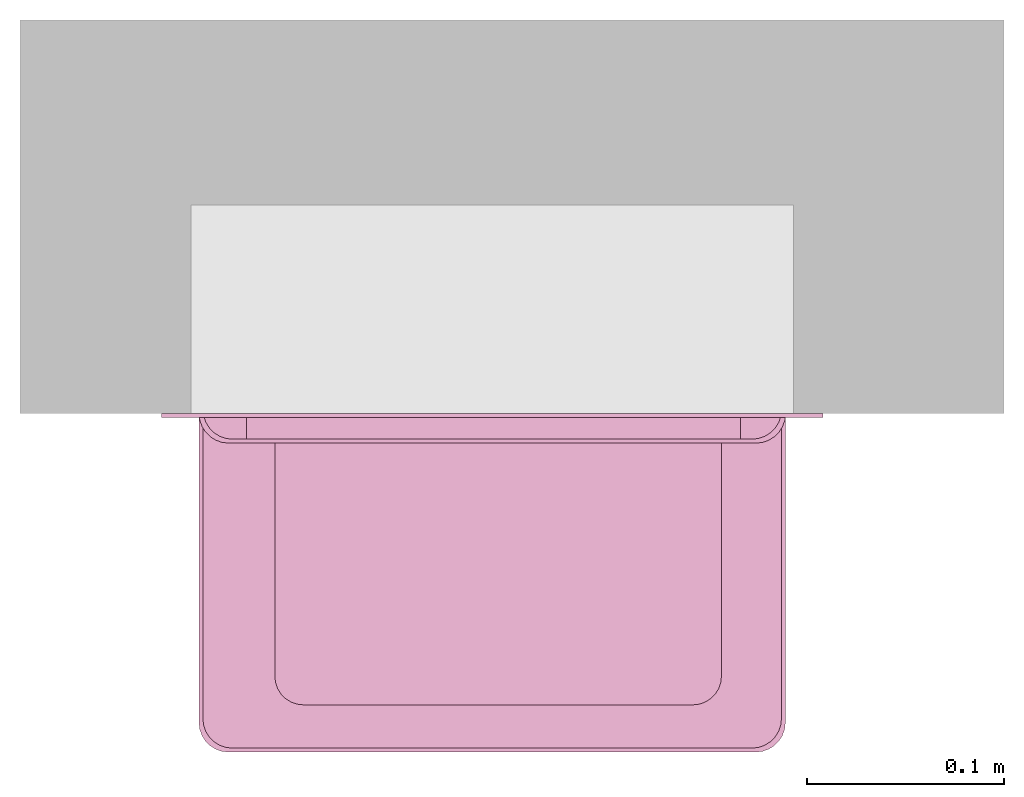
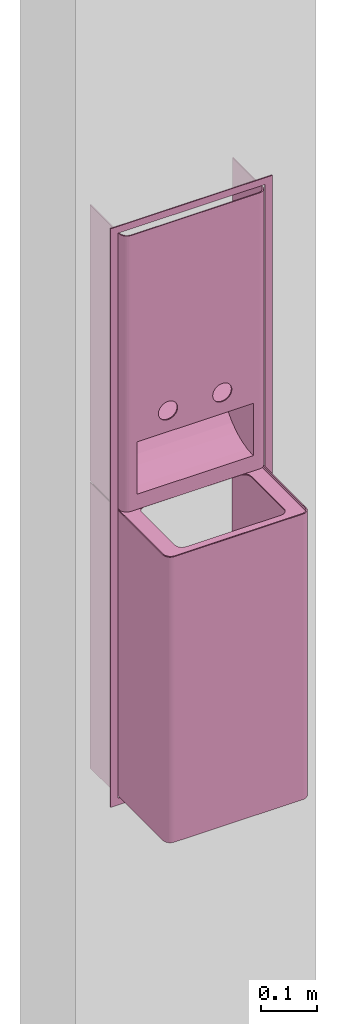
# One storey, part 2 of 2: 1 furnishing, 3 openings.
"""IFC2X3 building model written with IfcOpenShell, lengths in millimetres."""

from ifc_helpers import new_model, entity, si_unit, converted_unit, derived_unit, direction, frame, frame_2d, origin, origin_2d_with_axis, place, context, subcontext, project, spatial, polyline, circle_curve, parameter, trimmed, segment, composite_curve, rectangle, circle, outline, extrude, source, transform, mapped, material, type_object, type_shapes, element, save


model = new_model("IFC2X3")

# Units and contexts
model_context = context("Model", 3, precision=0.01, world=origin(), true_north=direction((6.123031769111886e-17, 1.0)))
body_context = subcontext(model_context, "Body", "Model", "MODEL_VIEW")
ifc_project = project(units=[si_unit("LENGTHUNIT", "METRE", prefix="MILLI"), si_unit("AREAUNIT", "SQUARE_METRE"), si_unit("VOLUMEUNIT", "CUBIC_METRE"), converted_unit("PLANEANGLEUNIT", "DEGREE", entity("IfcPlaneAngleMeasure", 0.017453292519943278), si_unit("PLANEANGLEUNIT", "RADIAN"), dimensions=[0, 0, 0, 0, 0, 0, 0]), si_unit("MASSUNIT", "GRAM", prefix="KILO"), derived_unit("MASSDENSITYUNIT", [(si_unit("MASSUNIT", "GRAM", prefix="KILO"), 1), (si_unit("LENGTHUNIT", "METRE"), -3)]), derived_unit("IONCONCENTRATIONUNIT", [(si_unit("MASSUNIT", "GRAM", prefix="KILO"), 1), (si_unit("LENGTHUNIT", "METRE"), -3)]), derived_unit("MOMENTOFINERTIAUNIT", [(si_unit("LENGTHUNIT", "METRE"), 4)]), si_unit("TIMEUNIT", "SECOND"), si_unit("FREQUENCYUNIT", "HERTZ"), si_unit("THERMODYNAMICTEMPERATUREUNIT", "DEGREE_CELSIUS"), derived_unit("THERMALTRANSMITTANCEUNIT", [(si_unit("MASSUNIT", "GRAM", prefix="KILO"), 1), (si_unit("THERMODYNAMICTEMPERATUREUNIT", "KELVIN"), -1), (si_unit("TIMEUNIT", "SECOND"), -3)]), derived_unit("THERMALCONDUCTANCEUNIT", [(si_unit("MASSUNIT", "GRAM", prefix="KILO"), 1), (si_unit("THERMODYNAMICTEMPERATUREUNIT", "KELVIN"), -1), (si_unit("TIMEUNIT", "SECOND"), -3), (si_unit("LENGTHUNIT", "METRE"), 1)]), derived_unit("VOLUMETRICFLOWRATEUNIT", [(si_unit("LENGTHUNIT", "METRE", prefix="DECI"), 3), (si_unit("TIMEUNIT", "SECOND"), -1)]), derived_unit("MASSFLOWRATEUNIT", [(si_unit("MASSUNIT", "GRAM", prefix="KILO"), 1), (si_unit("TIMEUNIT", "SECOND"), -1)]), derived_unit("ROTATIONALFREQUENCYUNIT", [(si_unit("TIMEUNIT", "SECOND"), -1)]), si_unit("ELECTRICCURRENTUNIT", "AMPERE"), si_unit("ELECTRICVOLTAGEUNIT", "VOLT"), si_unit("POWERUNIT", "WATT"), si_unit("FORCEUNIT", "NEWTON", prefix="KILO"), si_unit("ILLUMINANCEUNIT", "LUX"), si_unit("LUMINOUSFLUXUNIT", "LUMEN"), si_unit("LUMINOUSINTENSITYUNIT", "CANDELA"), si_unit("ENERGYUNIT", "JOULE"), derived_unit("USERDEFINED", [(si_unit("MASSUNIT", "GRAM", prefix="KILO"), -1), (si_unit("LENGTHUNIT", "METRE"), -2), (si_unit("TIMEUNIT", "SECOND"), 3), (si_unit("LUMINOUSFLUXUNIT", "LUMEN"), 1)]), derived_unit("USERDEFINED", [(si_unit("MASSUNIT", "GRAM", prefix="KILO"), 1), (si_unit("TIMEUNIT", "SECOND"), -3), (si_unit("LENGTHUNIT", "METRE"), 3), (si_unit("ELECTRICCURRENTUNIT", "AMPERE"), -2)]), derived_unit("SOUNDPOWERUNIT", [(si_unit("MASSUNIT", "GRAM", prefix="KILO"), 1), (si_unit("TIMEUNIT", "SECOND"), -3), (si_unit("LENGTHUNIT", "METRE"), 2)]), derived_unit("SOUNDPRESSUREUNIT", [(si_unit("MASSUNIT", "GRAM", prefix="KILO"), 1), (si_unit("LENGTHUNIT", "METRE"), -1), (si_unit("TIMEUNIT", "SECOND"), -2)]), derived_unit("LINEARVELOCITYUNIT", [(si_unit("LENGTHUNIT", "METRE"), 1), (si_unit("TIMEUNIT", "SECOND"), -1)]), si_unit("PRESSUREUNIT", "PASCAL"), derived_unit("USERDEFINED", [(si_unit("MASSUNIT", "GRAM", prefix="KILO"), 1), (si_unit("LENGTHUNIT", "METRE"), -2), (si_unit("TIMEUNIT", "SECOND"), -2)]), derived_unit("LINEARFORCEUNIT", [(si_unit("MASSUNIT", "GRAM", prefix="KILO"), 1), (si_unit("TIMEUNIT", "SECOND"), -2)]), derived_unit("PLANARFORCEUNIT", [(si_unit("MASSUNIT", "GRAM", prefix="KILO"), 1), (si_unit("LENGTHUNIT", "METRE"), -1), (si_unit("TIMEUNIT", "SECOND"), -2)]), derived_unit("SPECIFICHEATCAPACITYUNIT", [(si_unit("THERMODYNAMICTEMPERATUREUNIT", "KELVIN"), -1), (si_unit("LENGTHUNIT", "METRE"), 2), (si_unit("TIMEUNIT", "SECOND"), -2)]), derived_unit("HEATFLUXDENSITYUNIT", [(si_unit("MASSUNIT", "GRAM", prefix="KILO"), 1), (si_unit("TIMEUNIT", "SECOND"), -3)]), derived_unit("HEATINGVALUEUNIT", [(si_unit("LENGTHUNIT", "METRE"), 2), (si_unit("TIMEUNIT", "SECOND"), -2)]), derived_unit("VAPORPERMEABILITYUNIT", [(si_unit("LENGTHUNIT", "METRE"), -1), (si_unit("TIMEUNIT", "SECOND"), 1)]), derived_unit("DYNAMICVISCOSITYUNIT", [(si_unit("MASSUNIT", "GRAM", prefix="KILO"), 1), (si_unit("TIMEUNIT", "SECOND"), -1), (si_unit("LENGTHUNIT", "METRE"), -1)]), derived_unit("THERMALEXPANSIONCOEFFICIENTUNIT", [(si_unit("THERMODYNAMICTEMPERATUREUNIT", "KELVIN"), -1)]), derived_unit("MODULUSOFELASTICITYUNIT", [(si_unit("MASSUNIT", "GRAM", prefix="KILO"), 1), (si_unit("LENGTHUNIT", "METRE"), -1), (si_unit("TIMEUNIT", "SECOND"), -2)]), derived_unit("ISOTHERMALMOISTURECAPACITYUNIT", [(si_unit("MASSUNIT", "GRAM", prefix="KILO"), -1), (si_unit("LENGTHUNIT", "METRE"), 3)]), derived_unit("MOISTUREDIFFUSIVITYUNIT", [(si_unit("TIMEUNIT", "SECOND"), -1), (si_unit("LENGTHUNIT", "METRE"), 2)]), derived_unit("MASSPERLENGTHUNIT", [(si_unit("MASSUNIT", "GRAM", prefix="KILO"), 1), (si_unit("LENGTHUNIT", "METRE"), -1)]), derived_unit("THERMALRESISTANCEUNIT", [(si_unit("MASSUNIT", "GRAM", prefix="KILO"), -1), (si_unit("TIMEUNIT", "SECOND"), 3), (si_unit("THERMODYNAMICTEMPERATUREUNIT", "KELVIN"), 1)]), derived_unit("ACCELERATIONUNIT", [(si_unit("LENGTHUNIT", "METRE"), 1), (si_unit("TIMEUNIT", "SECOND"), -2)]), derived_unit("ANGULARVELOCITYUNIT", [(si_unit("TIMEUNIT", "SECOND"), -1), (si_unit("PLANEANGLEUNIT", "RADIAN"), 1)]), derived_unit("LINEARSTIFFNESSUNIT", [(si_unit("MASSUNIT", "GRAM", prefix="KILO"), 1), (si_unit("TIMEUNIT", "SECOND"), -2)]), derived_unit("WARPINGCONSTANTUNIT", [(si_unit("LENGTHUNIT", "METRE"), 6)]), derived_unit("LINEARMOMENTUNIT", [(si_unit("MASSUNIT", "GRAM", prefix="KILO"), 1), (si_unit("LENGTHUNIT", "METRE"), 1), (si_unit("TIMEUNIT", "SECOND"), -2)]), derived_unit("TORQUEUNIT", [(si_unit("MASSUNIT", "GRAM", prefix="KILO"), 1), (si_unit("LENGTHUNIT", "METRE"), 2), (si_unit("TIMEUNIT", "SECOND"), -2)])], contexts=[model_context])

# Site, building, storey
site_placement = place(None, origin())
site = spatial("IfcSite", under=ifc_project, at=site_placement, Name="Default", CompositionType="ELEMENT")
building_placement = place(site_placement, origin())
building = spatial("IfcBuilding", under=site, at=building_placement, CompositionType="ELEMENT")
storey_placement = place(building_placement, origin())
storey = spatial("IfcBuildingStorey", under=building, at=storey_placement, Name="Level 1", CompositionType="ELEMENT", Elevation=0.0)

# Furnishing, openings
ifc_material = material(Name="<Unnamed>")
furniture_type = type_object("IfcFurnitureType", Name="14710008103:d_line_Washroom_RecessedSanitaryPanels_PaperTowelDispenser__ProtrudedWasteBin_PanelSize8", AssemblyPlace="NOTDEFINED", material=ifc_material)
shared_shape = source(origin(), body_context, "Body", "SweptSolid", [
    extrude(outline(polyline([(-636.0, -168.0), (636.0, -168.0), (636.0, 168.0), (-636.0, 168.0), (-636.0, -168.0)]), holes=[polyline([(-621.0, 153.0), (621.0, 153.0), (621.0, -153.0), (-621.0, -153.0), (-621.0, 153.0)])]), frame((0.0, 100.0, 1621.0), z_axis=(0.0, 1.0, 0.0), x_axis=(0.0, 0.0, 1.0)), (0.0, 0.0, 1.0), 2.000000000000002),
    extrude(outline(composite_curve([segment(polyline([(-147.0, -29.0), (-147.0, 75.0)]), True, "CONTINUOUS"), segment(polyline([(-147.0, 75.0), (-149.0, 75.0)]), True, "CONTINUOUS"), segment(polyline([(-149.0, 75.0), (-149.0, -31.0)]), True, "CONTINUOUS"), segment(trimmed(circle_curve(frame_2d((-134.0, -31.0), x_axis=(1.0, 0.0)), 15.0), [parameter(179.9999999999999)], [parameter(270.0000000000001)], True, "PARAMETER"), True, "CONTINUOUS"), segment(polyline([(-134.0, -46.0), (134.0, -46.0)]), True, "CONTINUOUS"), segment(trimmed(circle_curve(frame_2d((134.0, -31.0), x_axis=(1.0, 0.0)), 15.0), [parameter(270.00000000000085)], [parameter(8.651108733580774e-13)], True, "PARAMETER"), True, "CONTINUOUS"), segment(polyline([(149.0, -31.0), (149.0, 75.0)]), True, "CONTINUOUS"), segment(polyline([(149.0, 75.0), (147.0, 75.0)]), True, "CONTINUOUS"), segment(polyline([(147.0, 75.0), (147.0, -29.0)]), True, "CONTINUOUS"), segment(trimmed(circle_curve(frame_2d((132.0, -29.0), x_axis=(1.0, 0.0)), 15.0), [parameter(269.999999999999)], [parameter(359.999999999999)], True, "PARAMETER"), False, "CONTINUOUS"), segment(polyline([(132.0, -44.0), (-132.0, -44.0)]), True, "CONTINUOUS"), segment(trimmed(circle_curve(frame_2d((-132.0, -29.0), x_axis=(1.0, 0.0)), 15.0), [parameter(180.0)], [parameter(269.9999999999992)], True, "PARAMETER"), False, "CONTINUOUS")], self_intersect=False)), frame((0.0, 69.0, 1631.628302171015), z_axis=(0.0, 0.0, -1.0), x_axis=(1.0, 0.0, 0.0)), (0.0, 0.0, -1.0), 606.37169782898),
    extrude(outline(composite_curve([segment(polyline([(-76.33618254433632, 38.0), (38.663817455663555, 38.0)]), True, "CONTINUOUS"), segment(polyline([(38.663817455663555, 38.0), (38.663817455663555, 40.0)]), True, "CONTINUOUS"), segment(polyline([(38.663817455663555, 40.0), (-78.31908727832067, 40.0)]), True, "CONTINUOUS"), segment(trimmed(circle_curve(frame_2d((38.66381745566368, 38.0), x_axis=(1.0, 0.0)), 116.99999999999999), [parameter(179.02053726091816)], [parameter(270.0)], True, "PARAMETER"), True, "CONTINUOUS"), segment(polyline([(38.66381745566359, -79.0), (38.66381745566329, -77.0)]), True, "CONTINUOUS"), segment(trimmed(circle_curve(frame_2d((38.66381745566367, 38.0), x_axis=(1.0, 0.0)), 114.99999999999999), [parameter(179.99999999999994)], [parameter(270.00000000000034)], True, "PARAMETER"), False, "CONTINUOUS")], self_intersect=False)), frame((-121.0, 74.33618254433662, 1742.0), z_axis=(1.0, 0.0, 0.0), x_axis=(0.0, 1.0, 0.0)), (0.0, 0.0, 1.0), 242.00000000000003),
    extrude(rectangle(XDim=116.98290473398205, YDim=4.999999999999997, at=frame_2d((0.0, 8.43769498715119e-15), x_axis=(1.0, 0.0))), frame((-123.5, 54.50854763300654, 1662.0), z_axis=(0.0, 0.0, 1.0), x_axis=(0.0, 1.0, 0.0)), (0.0, 0.0, 1.0), 120.00000000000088),
    extrude(rectangle(XDim=116.98290473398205, YDim=3.944983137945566, at=origin_2d_with_axis()), frame((122.9724915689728, 54.50854763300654, 1662.0), z_axis=(0.0, 0.0, 1.0), x_axis=(0.0, 1.0, 0.0)), (0.0, 0.0, 1.0), 120.00000000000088),
    extrude(outline(composite_curve([segment(polyline([(-179.6666666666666, -147.0), (-179.6666666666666, -149.0)]), True, "CONTINUOUS"), segment(polyline([(-179.6666666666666, -149.0), (83.33333333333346, -149.0)]), True, "CONTINUOUS"), segment(trimmed(circle_curve(frame_2d((83.33333333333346, -134.0), x_axis=(0.0, 1.0)), 15.0), [parameter(179.99999999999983)], [parameter(269.9999999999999)], True, "PARAMETER"), True, "CONTINUOUS"), segment(polyline([(98.33333333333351, -134.0), (98.33333333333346, 134.0)]), True, "CONTINUOUS"), segment(trimmed(circle_curve(frame_2d((83.33333333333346, 134.0), x_axis=(0.0, 1.0)), 15.0), [parameter(269.9999999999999)], [parameter(0.0)], True, "PARAMETER"), True, "CONTINUOUS"), segment(polyline([(83.33333333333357, 149.0), (-179.66666666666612, 149.0)]), True, "CONTINUOUS"), segment(polyline([(-179.66666666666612, 149.0), (-179.66666666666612, 147.0)]), True, "CONTINUOUS"), segment(polyline([(-179.66666666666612, 147.0), (81.33333333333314, 147.0)]), True, "CONTINUOUS"), segment(trimmed(circle_curve(frame_2d((81.33333333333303, 132.0), x_axis=(0.0, 1.0)), 15.0), [parameter(269.9999999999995)], [parameter(359.9999999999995)], True, "PARAMETER"), False, "CONTINUOUS"), segment(polyline([(96.333333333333, 132.0), (96.33333333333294, -132.0)]), True, "CONTINUOUS"), segment(trimmed(circle_curve(frame_2d((81.33333333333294, -132.0), x_axis=(0.0, 1.0)), 15.0), [parameter(180.00000000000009)], [parameter(269.9999999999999)], True, "PARAMETER"), False, "CONTINUOUS"), segment(polyline([(81.33333333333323, -147.0), (-179.6666666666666, -147.0)]), True, "CONTINUOUS")], self_intersect=False)), frame((0.07500000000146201, 173.6666666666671, 1000.0), z_axis=(0.0, 0.0, -1.0), x_axis=(0.0, 1.0, 0.0)), (0.0, 0.0, -1.0), 627.6283021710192),
    extrude(outline(composite_curve([segment(trimmed(circle_curve(frame_2d((82.0, -132.0), x_axis=(1.0, 0.0)), 15.0), [parameter(269.9999999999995)], [parameter(359.99999999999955)], True, "PARAMETER"), True, "CONTINUOUS"), segment(polyline([(97.0, -132.0), (97.0, 132.0)]), True, "CONTINUOUS"), segment(trimmed(circle_curve(frame_2d((82.0, 132.0), x_axis=(1.0, 0.0)), 15.0), [parameter(359.99999999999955)], [parameter(89.99999999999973)], True, "PARAMETER"), True, "CONTINUOUS"), segment(polyline([(82.0, 147.0), (-179.0, 147.0)]), True, "CONTINUOUS"), segment(polyline([(-179.0, 147.0), (-179.0, -147.0)]), True, "CONTINUOUS"), segment(polyline([(-179.0, -147.0), (82.0, -147.0)]), True, "CONTINUOUS")], self_intersect=False)), frame((0.07500000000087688, 173.19999999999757, 1004.1283021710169), z_axis=(0.0, 0.0, 1.0), x_axis=(0.0, 1.0, 0.0)), (0.0, 0.0, 1.0), 1.9999999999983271),
    extrude(outline(composite_curve([segment(trimmed(circle_curve(frame_2d((82.0, -132.0), x_axis=(1.0, 0.0)), 15.0), [parameter(269.9999999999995)], [parameter(359.99999999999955)], True, "PARAMETER"), True, "CONTINUOUS"), segment(polyline([(97.0, -132.0), (97.0, 132.0)]), True, "CONTINUOUS"), segment(trimmed(circle_curve(frame_2d((82.0, 132.0), x_axis=(1.0, 0.0)), 15.0), [parameter(359.99999999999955)], [parameter(89.99999999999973)], True, "PARAMETER"), True, "CONTINUOUS"), segment(polyline([(82.0, 147.0), (-179.0, 147.0)]), True, "CONTINUOUS"), segment(polyline([(-179.0, 147.0), (-179.0, -147.0)]), True, "CONTINUOUS"), segment(polyline([(-179.0, -147.0), (82.0, -147.0)]), True, "CONTINUOUS")], self_intersect=False), holes=[composite_curve([segment(polyline([(75.0, 102.0), (75.0, -95.92500000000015)]), True, "CONTINUOUS"), segment(trimmed(circle_curve(frame_2d((60.500000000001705, -95.92500000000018), x_axis=(0.0, 1.0)), 14.499999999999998), [parameter(179.99999999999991)], [parameter(269.9999999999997)], True, "PARAMETER"), False, "CONTINUOUS"), segment(polyline([(60.500000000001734, -110.42500000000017), (-58.09999999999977, -110.42500000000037)]), True, "CONTINUOUS"), segment(trimmed(circle_curve(frame_2d((-58.09999999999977, -95.92500000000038), x_axis=(0.0, 1.0)), 14.500000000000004), [parameter(90.0000000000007)], [parameter(179.99999999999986)], True, "PARAMETER"), False, "CONTINUOUS"), segment(polyline([(-72.59999999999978, -95.92500000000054), (-72.60000000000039, 102.0)]), True, "CONTINUOUS"), segment(trimmed(circle_curve(frame_2d((-58.10000000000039, 102.0), x_axis=(0.0, 1.0)), 14.499999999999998), [parameter(5.088887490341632e-14)], [parameter(90.00000000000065)], True, "PARAMETER"), False, "CONTINUOUS"), segment(polyline([(-58.100000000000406, 116.50000000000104), (60.500000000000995, 116.50000000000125)]), True, "CONTINUOUS"), segment(trimmed(circle_curve(frame_2d((60.50000000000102, 102.0), x_axis=(0.0, 1.0)), 14.5), [parameter(270.0000000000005)], [parameter(5.597776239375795e-13)], True, "PARAMETER"), False, "CONTINUOUS")], self_intersect=False)]), frame((0.07500000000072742, 173.0, 1619.6283021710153), z_axis=(0.0, 0.0, 1.0), x_axis=(0.0, 1.0, 0.0)), (0.0, 0.0, 1.0), 1.9999999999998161),
])
type_shapes(furniture_type, [shared_shape])
furnishing_placement = place(storey_placement, frame((-735.8012978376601, 92.74902737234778, 0.0), z_axis=(0.0, 0.0, 1.0), x_axis=(-1.0, 0.0, 0.0)))
furnishing = element("IfcFurnishingElement", 1, at=furnishing_placement, inside=storey, type_object=furniture_type, material=ifc_material, Name="14710008103:d_line_Washroom_RecessedSanitaryPanels_PaperTowelDispenser__ProtrudedWasteBin_PanelSize8", ObjectType="14710008103:d_line_Washroom_RecessedSanitaryPanels_PaperTowelDispenser__ProtrudedWasteBin_PanelSize8", context=body_context, shape_type="MappedRepresentation", body=[
    mapped(shared_shape, transform((0.0, 0.0, 0.0), scale=1.0)),
])
opening_1_placement = place(storey_placement, frame((-735.8012978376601, 92.74902737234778, 0.0)))
element("IfcOpeningElement", 2, at=opening_1_placement, cuts=furnishing, Name="14710008103:d_line_Washroom_RecessedSanitaryPanels_PaperTowelDispenser__ProtrudedWasteBin_PanelSize8:1", ObjectType="Opening", context=body_context, shape_type="SweptSolid", body=[
    extrude(circle(Radius=20.000000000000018, at=origin_2d_with_axis()), frame((-56.3778313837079, -115.0, 1826.5015438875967), z_axis=(0.0, 1.0, 0.0), x_axis=(-1.0, 0.0, 0.0)), (0.0, 0.0, 1.0), 1.99999999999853),
])
opening_2_placement = place(storey_placement, frame((-735.8012978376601, 92.74902737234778, 0.0)))
element("IfcOpeningElement", 3, at=opening_2_placement, cuts=furnishing, Name="14710008103:d_line_Washroom_RecessedSanitaryPanels_PaperTowelDispenser__ProtrudedWasteBin_PanelSize8:2", ObjectType="Opening", context=body_context, shape_type="SweptSolid", body=[
    extrude(circle(Radius=20.0, at=origin_2d_with_axis()), frame((56.37783138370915, -115.0, 1826.501543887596), z_axis=(0.0, 1.0, 0.0), x_axis=(-1.0, 0.0, 0.0)), (0.0, 0.0, 1.0), 1.99999999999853),
])
opening_3_placement = place(storey_placement, frame((-735.8012978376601, 92.74902737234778, 0.0)))
element("IfcOpeningElement", 4, at=opening_3_placement, cuts=furnishing, Name="14710008103:d_line_Washroom_RecessedSanitaryPanels_PaperTowelDispenser__ProtrudedWasteBin_PanelSize8:3", ObjectType="Opening", context=body_context, shape_type="SweptSolid", body=[
    extrude(rectangle(XDim=114.99999999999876, YDim=242.0, at=frame_2d((0.0, 0.0), x_axis=(0.0, 1.0))), frame((0.0, -115.0, 1722.4999999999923), z_axis=(0.0, 1.0, 0.0), x_axis=(-1.0, 0.0, 0.0)), (0.0, 0.0, 1.0), 1.99999999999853),
])

save(model, "model.ifc")
